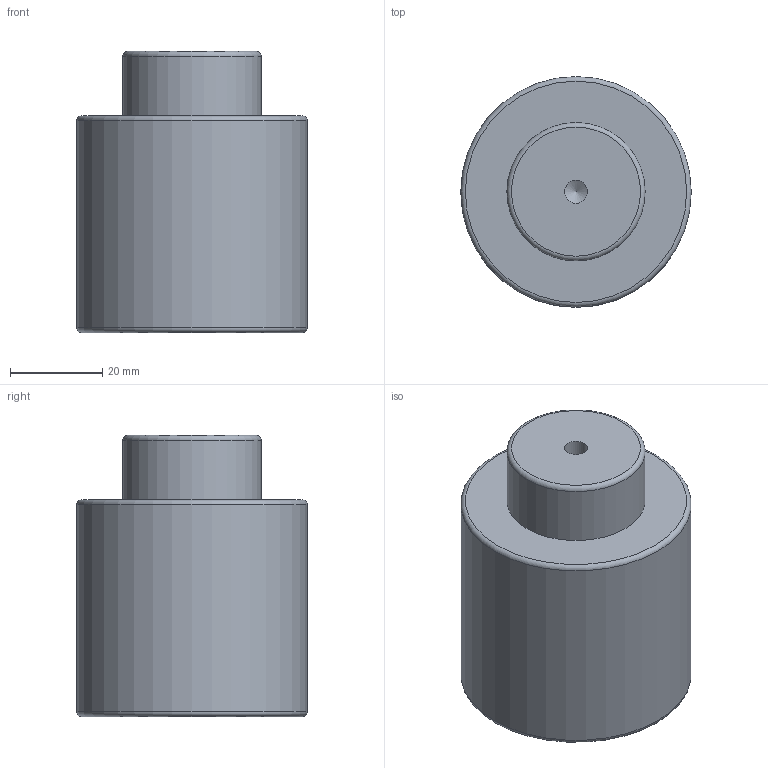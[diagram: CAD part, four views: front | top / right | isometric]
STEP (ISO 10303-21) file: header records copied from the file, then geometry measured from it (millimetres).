
FILE_DESCRIPTION(/* description */ (''),/* implementation_level */ '2;1');
FILE_NAME(/* name */ 'NV5-SMLX.50x13.stp',/* time_stamp */ '2018-08-31T16:08:34+02:00',/* author */ (''),/* organization */ (''),/* preprocessor_version */ 'ST-DEVELOPER v16',/* originating_system */ 'SIEMENS PLM Software NX 10.0',/* authorisation */ '');
FILE_SCHEMA (('AUTOMOTIVE_DESIGN { 1 0 10303 214 3 1 1 1 }'));
Length unit declared in the file: millimetre
Products named in the file (1): NV5-SMLX.50x13
Bounding box: 50 x 50 x 61 mm (x, y, z)
Volume: 100854.8 mm3; surface area: 13092.1 mm2
Topology: 1 solids, 1 shells, 12 faces, 24 edges, 15 vertices
Faces by surface type: cylinder 4, torus 3, plane 3, cone 2
Full cylindrical faces by diameter (mm): 5 x1, 8.5 x1, 30 x1, 50 x1
Entity records: 266 total; most frequent: DIRECTION 48, CARTESIAN_POINT 37, FACE_BOUND 24, AXIS2_PLACEMENT_3D 24, EDGE_LOOP 22, ORIENTED_EDGE 22, VERTEX_POINT 13, ADVANCED_FACE 12
